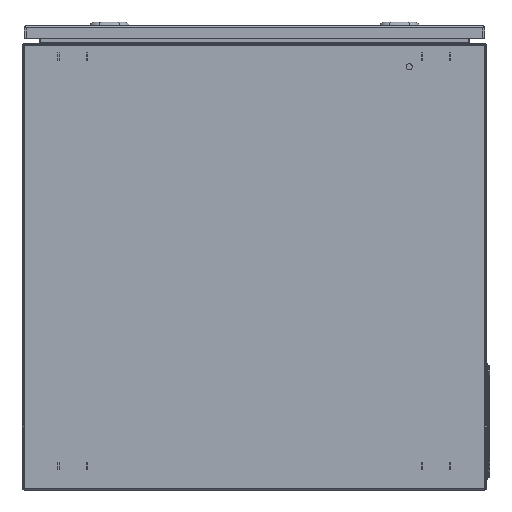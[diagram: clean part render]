
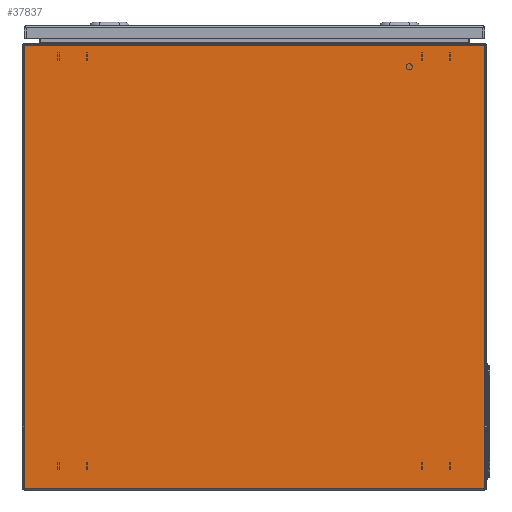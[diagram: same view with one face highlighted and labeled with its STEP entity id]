
A CAD part, left-side view. The second image highlights one B-rep face of the part: STEP entity #37837.
In plain terms, the highlighted planar face has unit normal (-1, 0, 0).
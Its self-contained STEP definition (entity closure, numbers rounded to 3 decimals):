
#847 = LINE ( 'NONE', #27387, #30980 ) ;
#1078 = EDGE_CURVE ( 'NONE', #56567, #34358, #39461, .T. ) ;
#1159 = DIRECTION ( 'NONE',  ( 0., 0., -1. ) ) ;
#3710 = ORIENTED_EDGE ( 'NONE', *, *, #10030, .F. ) ;
#7455 = CARTESIAN_POINT ( 'NONE',  ( -300., 297.5, 2.35 ) ) ;
#7945 = CARTESIAN_POINT ( 'NONE',  ( -300., -300., 2.35 ) ) ;
#8290 = VECTOR ( 'NONE', #57140, 1000. ) ;
#9398 = ORIENTED_EDGE ( 'NONE', *, *, #1078, .T. ) ;
#9845 = FACE_OUTER_BOUND ( 'NONE', #30354, .T. ) ;
#10030 = EDGE_CURVE ( 'NONE', #18085, #51385, #53364, .T. ) ;
#10124 = DIRECTION ( 'NONE',  ( 1., 0., 0. ) ) ;
#12205 = CARTESIAN_POINT ( 'NONE',  ( -300., 300., 574.5 ) ) ;
#14974 = CARTESIAN_POINT ( 'NONE',  ( -300., 297.5, 574.5 ) ) ;
#18085 = VERTEX_POINT ( 'NONE', #14974 ) ;
#19164 = CARTESIAN_POINT ( 'NONE',  ( -300., -300., 1.5 ) ) ;
#19457 = EDGE_CURVE ( 'NONE', #34358, #51385, #847, .T. ) ;
#25406 = VECTOR ( 'NONE', #29828, 1000. ) ;
#27387 = CARTESIAN_POINT ( 'NONE',  ( -300., -297.5, 1.5 ) ) ;
#27651 = PLANE ( 'NONE',  #47694 ) ;
#29828 = DIRECTION ( 'NONE',  ( 0., -1., 0. ) ) ;
#30354 = EDGE_LOOP ( 'NONE', ( #34558, #9398, #43103, #3710 ) ) ;
#30980 = VECTOR ( 'NONE', #50719, 1000. ) ;
#31373 = CARTESIAN_POINT ( 'NONE',  ( -300., -297.5, 574.5 ) ) ;
#34358 = VERTEX_POINT ( 'NONE', #50282 ) ;
#34558 = ORIENTED_EDGE ( 'NONE', *, *, #54987, .T. ) ;
#36490 = LINE ( 'NONE', #50204, #54214 ) ;
#37837 = ADVANCED_FACE ( 'NONE', ( #9845 ), #27651, .F. ) ;
#39461 = LINE ( 'NONE', #7945, #25406 ) ;
#43103 = ORIENTED_EDGE ( 'NONE', *, *, #19457, .T. ) ;
#46326 = DIRECTION ( 'NONE',  ( 0., 0., -1. ) ) ;
#47694 = AXIS2_PLACEMENT_3D ( 'NONE', #19164, #10124, #46326 ) ;
#50204 = CARTESIAN_POINT ( 'NONE',  ( -300., 297.5, 1.5 ) ) ;
#50282 = CARTESIAN_POINT ( 'NONE',  ( -300., -297.5, 2.35 ) ) ;
#50719 = DIRECTION ( 'NONE',  ( 0., 0., 1. ) ) ;
#51385 = VERTEX_POINT ( 'NONE', #31373 ) ;
#53364 = LINE ( 'NONE', #12205, #8290 ) ;
#54214 = VECTOR ( 'NONE', #1159, 1000. ) ;
#54987 = EDGE_CURVE ( 'NONE', #18085, #56567, #36490, .T. ) ;
#56567 = VERTEX_POINT ( 'NONE', #7455 ) ;
#57140 = DIRECTION ( 'NONE',  ( 0., -1., 0. ) ) ;
